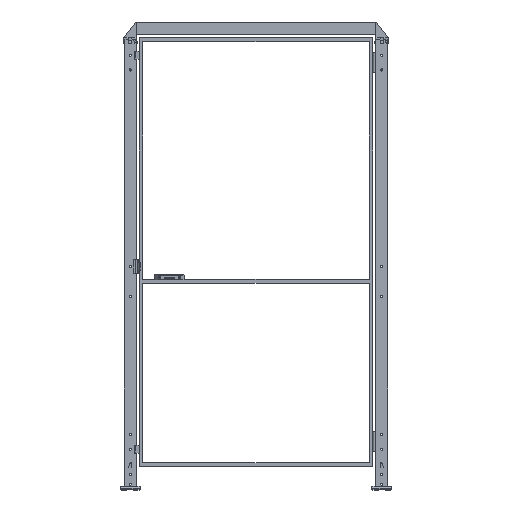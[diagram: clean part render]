
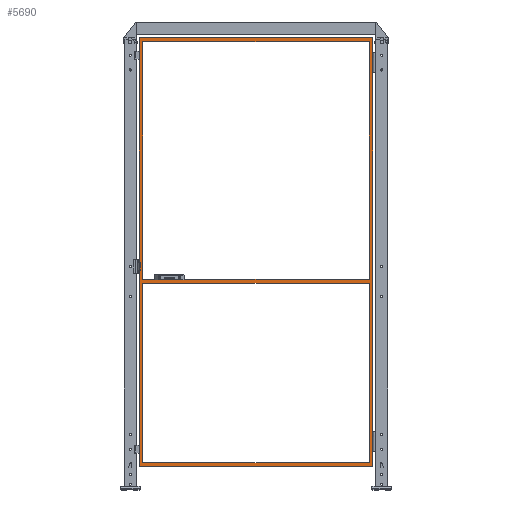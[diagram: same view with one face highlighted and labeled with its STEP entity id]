
A CAD part, top view. The second image highlights one B-rep face of the part: STEP entity #5690.
In plain terms, the highlighted planar face has unit normal (0, 0, 1).
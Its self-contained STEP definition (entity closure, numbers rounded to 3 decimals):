
#5690=ADVANCED_FACE('',(#11648,#11649,#11650),#11651,.F.);
#11648=FACE_BOUND('',#19171,.T.);
#11649=FACE_OUTER_BOUND('',#19172,.T.);
#11650=FACE_BOUND('',#19173,.T.);
#11651=PLANE('',#19174);
#19171=EDGE_LOOP('',(#35965,#35966,#35967,#35968));
#19172=EDGE_LOOP('',(#35969,#35970,#35971,#35972));
#19173=EDGE_LOOP('',(#35973,#35974,#35975,#35976));
#19174=AXIS2_PLACEMENT_3D('',#35977,#35978,#35979);
#35965=ORIENTED_EDGE('',*,*,#42847,.F.);
#35966=ORIENTED_EDGE('',*,*,#42853,.T.);
#35967=ORIENTED_EDGE('',*,*,#42875,.T.);
#35968=ORIENTED_EDGE('',*,*,#42880,.F.);
#35969=ORIENTED_EDGE('',*,*,#42891,.F.);
#35970=ORIENTED_EDGE('',*,*,#42885,.F.);
#35971=ORIENTED_EDGE('',*,*,#42855,.F.);
#35972=ORIENTED_EDGE('',*,*,#42889,.F.);
#35973=ORIENTED_EDGE('',*,*,#42877,.F.);
#35974=ORIENTED_EDGE('',*,*,#42872,.F.);
#35975=ORIENTED_EDGE('',*,*,#42883,.T.);
#35976=ORIENTED_EDGE('',*,*,#42892,.T.);
#35977=CARTESIAN_POINT('',(615.0,130.0,10.0));
#35978=DIRECTION('',(0.,0.0,-1.0));
#35979=DIRECTION('',(-1.0,0.0,0.));
#42847=EDGE_CURVE('',#52941,#52944,#52945,.T.);
#42853=EDGE_CURVE('',#52941,#52952,#52954,.T.);
#42855=EDGE_CURVE('',#52956,#52957,#52958,.T.);
#42872=EDGE_CURVE('',#52984,#52982,#52986,.T.);
#42875=EDGE_CURVE('',#52952,#52988,#52990,.T.);
#42877=EDGE_CURVE('',#52982,#52992,#52993,.T.);
#42880=EDGE_CURVE('',#52944,#52988,#52996,.T.);
#42883=EDGE_CURVE('',#52984,#52998,#53000,.T.);
#42885=EDGE_CURVE('',#52957,#53002,#53003,.T.);
#42889=EDGE_CURVE('',#53006,#52956,#53008,.T.);
#42891=EDGE_CURVE('',#53002,#53006,#53010,.T.);
#42892=EDGE_CURVE('',#52998,#52992,#53011,.T.);
#52941=VERTEX_POINT('',#68243);
#52944=VERTEX_POINT('',#68247);
#52945=LINE('',#68248,#68249);
#52952=VERTEX_POINT('',#68259);
#52954=LINE('',#68262,#68263);
#52956=VERTEX_POINT('',#68265);
#52957=VERTEX_POINT('',#68266);
#52958=LINE('',#68267,#68268);
#52982=VERTEX_POINT('',#68304);
#52984=VERTEX_POINT('',#68307);
#52986=LINE('',#68310,#68311);
#52988=VERTEX_POINT('',#68313);
#52990=LINE('',#68316,#68317);
#52992=VERTEX_POINT('',#68319);
#52993=LINE('',#68320,#68321);
#52996=LINE('',#68325,#68326);
#52998=VERTEX_POINT('',#68328);
#53000=LINE('',#68331,#68332);
#53002=VERTEX_POINT('',#68334);
#53003=LINE('',#68335,#68336);
#53006=VERTEX_POINT('',#68340);
#53008=LINE('',#68343,#68344);
#53010=LINE('',#68346,#68347);
#53011=LINE('',#68348,#68349);
#68243=CARTESIAN_POINT('',(1195.0,2300.0,10.));
#68247=CARTESIAN_POINT('',(35.,2300.0,10.0));
#68248=CARTESIAN_POINT('',(615.0,2300.0,10.0));
#68249=VECTOR('',#75637,1.0);
#68259=CARTESIAN_POINT('',(1195.0,1080.0,10.));
#68262=CARTESIAN_POINT('',(1195.0,1220.0,10.));
#68263=VECTOR('',#75642,1.0);
#68265=CARTESIAN_POINT('',(15.0,120.0,10.0));
#68266=CARTESIAN_POINT('',(15.,2320.0,10.0));
#68267=CARTESIAN_POINT('',(15.0,130.0,10.0));
#68268=VECTOR('',#75643,1.0);
#68304=CARTESIAN_POINT('',(35.,1060.0,10.0));
#68307=CARTESIAN_POINT('',(1195.0,1060.0,10.));
#68310=CARTESIAN_POINT('',(615.0,1060.0,10.0));
#68311=VECTOR('',#75658,1.0);
#68313=CARTESIAN_POINT('',(35.,1080.0,10.0));
#68316=CARTESIAN_POINT('',(615.0,1080.0,10.0));
#68317=VECTOR('',#75660,1.0);
#68319=CARTESIAN_POINT('',(35.0,140.0,10.0));
#68320=CARTESIAN_POINT('',(35.,1220.0,10.0));
#68321=VECTOR('',#75661,1.0);
#68325=CARTESIAN_POINT('',(35.,1220.0,10.0));
#68326=VECTOR('',#75663,1.0);
#68328=CARTESIAN_POINT('',(1195.0,140.0,10.));
#68331=CARTESIAN_POINT('',(1195.0,1220.0,10.));
#68332=VECTOR('',#75665,1.0);
#68334=CARTESIAN_POINT('',(1215.0,2320.0,10.));
#68335=CARTESIAN_POINT('',(25.,2320.0,10.0));
#68336=VECTOR('',#75666,1.0);
#68340=CARTESIAN_POINT('',(1215.0,120.0,10.));
#68343=CARTESIAN_POINT('',(615.0,120.0,10.0));
#68344=VECTOR('',#75669,1.0);
#68346=CARTESIAN_POINT('',(1215.0,1220.0,10.));
#68347=VECTOR('',#75670,1.0);
#68348=CARTESIAN_POINT('',(615.0,140.0,10.0));
#68349=VECTOR('',#75671,1.0);
#75637=DIRECTION('',(-1.0,0.0,0.));
#75642=DIRECTION('',(0.,-1.0,0.));
#75643=DIRECTION('',(0.0,1.0,0.0));
#75658=DIRECTION('',(-1.0,0.0,0.));
#75660=DIRECTION('',(-1.0,0.0,0.));
#75661=DIRECTION('',(0.,-1.0,0.));
#75663=DIRECTION('',(0.,-1.0,0.));
#75665=DIRECTION('',(0.,-1.0,0.));
#75666=DIRECTION('',(1.0,0.,0.));
#75669=DIRECTION('',(-1.0,0.0,0.));
#75670=DIRECTION('',(0.,-1.0,0.));
#75671=DIRECTION('',(-1.0,0.0,0.));
